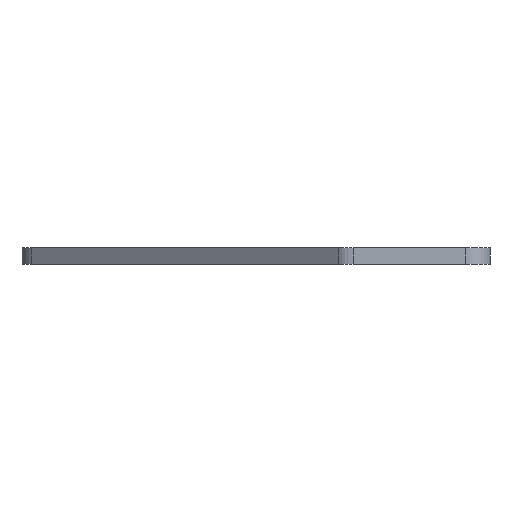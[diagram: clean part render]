
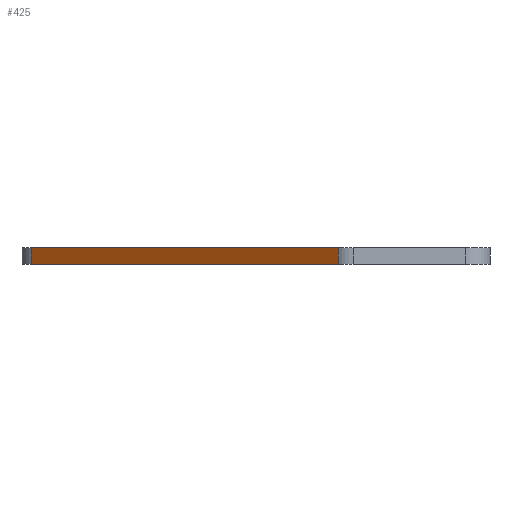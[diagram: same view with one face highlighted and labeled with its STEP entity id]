
A CAD part, left-side view. The second image highlights one B-rep face of the part: STEP entity #425.
In plain terms, the highlighted planar face has unit normal (-0.79, 0.613, 0).
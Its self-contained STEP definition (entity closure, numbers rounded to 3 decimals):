
#36 = EDGE_CURVE ( 'NONE', #624, #259, #616, .T. ) ;
#55 = CARTESIAN_POINT ( 'NONE',  ( 5.041, 44.475, 2. ) ) ;
#64 = CARTESIAN_POINT ( 'NONE',  ( -24.429, 6.448, 2. ) ) ;
#84 = CARTESIAN_POINT ( 'NONE',  ( 5.041, 44.475, 0. ) ) ;
#113 = CARTESIAN_POINT ( 'NONE',  ( 5.942, 45.637, 2. ) ) ;
#143 = EDGE_CURVE ( 'NONE', #845, #624, #827, .T. ) ;
#160 = ORIENTED_EDGE ( 'NONE', *, *, #413, .F. ) ;
#195 = LINE ( 'NONE', #113, #791 ) ;
#198 = DIRECTION ( 'NONE',  ( -0.613, -0.79, 0. ) ) ;
#203 = PLANE ( 'NONE',  #424 ) ;
#259 = VERTEX_POINT ( 'NONE', #856 ) ;
#388 = VECTOR ( 'NONE', #1045, 1000. ) ;
#413 = EDGE_CURVE ( 'NONE', #845, #1056, #195, .T. ) ;
#414 = ORIENTED_EDGE ( 'NONE', *, *, #808, .T. ) ;
#424 = AXIS2_PLACEMENT_3D ( 'NONE', #666, #766, #451 ) ;
#425 = ADVANCED_FACE ( 'NONE', ( #851 ), #203, .F. ) ;
#451 = DIRECTION ( 'NONE',  ( 0.613, 0.79, 0. ) ) ;
#472 = LINE ( 'NONE', #683, #935 ) ;
#583 = VECTOR ( 'NONE', #993, 1000. ) ;
#616 = LINE ( 'NONE', #699, #583 ) ;
#624 = VERTEX_POINT ( 'NONE', #84 ) ;
#666 = CARTESIAN_POINT ( 'NONE',  ( 5.942, 45.637, 2. ) ) ;
#683 = CARTESIAN_POINT ( 'NONE',  ( -24.429, 6.448, 2. ) ) ;
#699 = CARTESIAN_POINT ( 'NONE',  ( 5.942, 45.637, 0. ) ) ;
#702 = CARTESIAN_POINT ( 'NONE',  ( 5.041, 44.475, 2. ) ) ;
#766 = DIRECTION ( 'NONE',  ( 0.79, -0.613, 0. ) ) ;
#791 = VECTOR ( 'NONE', #198, 1000. ) ;
#808 = EDGE_CURVE ( 'NONE', #259, #1056, #472, .T. ) ;
#827 = LINE ( 'NONE', #702, #388 ) ;
#845 = VERTEX_POINT ( 'NONE', #55 ) ;
#851 = FACE_OUTER_BOUND ( 'NONE', #1005, .T. ) ;
#856 = CARTESIAN_POINT ( 'NONE',  ( -24.429, 6.448, 0. ) ) ;
#885 = DIRECTION ( 'NONE',  ( 0., 0., 1. ) ) ;
#935 = VECTOR ( 'NONE', #885, 1000. ) ;
#993 = DIRECTION ( 'NONE',  ( -0.613, -0.79, 0. ) ) ;
#1005 = EDGE_LOOP ( 'NONE', ( #1065, #414, #160, #1084 ) ) ;
#1045 = DIRECTION ( 'NONE',  ( 0., 0., -1. ) ) ;
#1056 = VERTEX_POINT ( 'NONE', #64 ) ;
#1065 = ORIENTED_EDGE ( 'NONE', *, *, #36, .T. ) ;
#1084 = ORIENTED_EDGE ( 'NONE', *, *, #143, .T. ) ;
